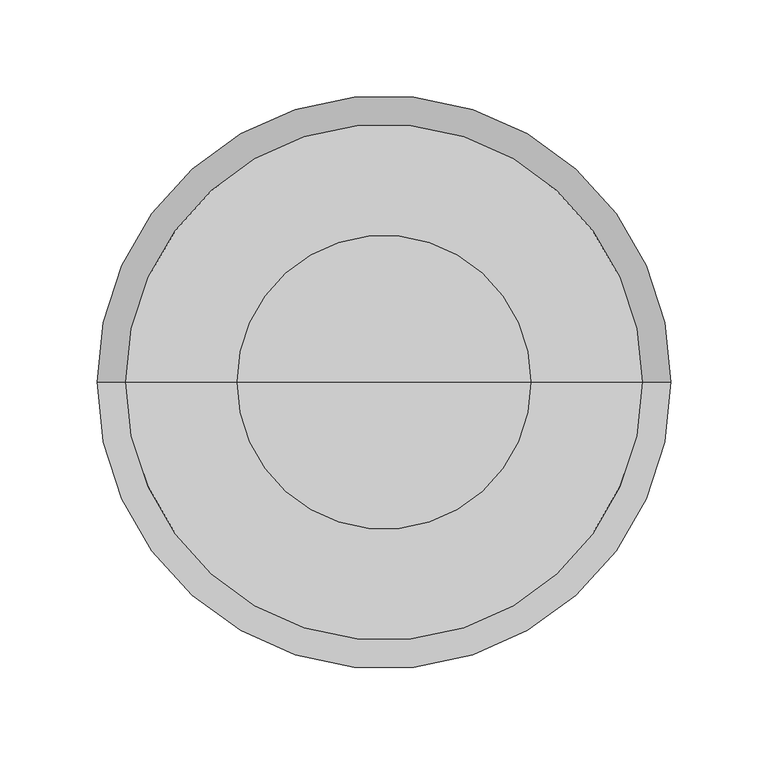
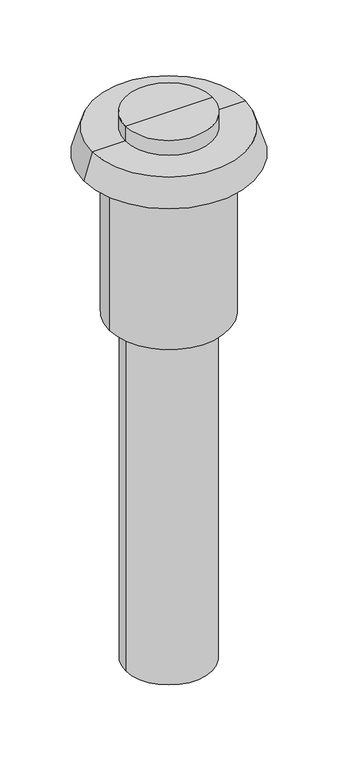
"""IFC4 building model written with IfcOpenShell, lengths in millimetres: air terminal geometry, NLRS_57_AIR_WPB_roof ventilation terminals_M&G : EPS Black, ø150 - L=1000mm."""

from ifc_helpers import new_model, si_unit, frame, origin, place, context, project, spatial, polyline, circle_curve, source, transform, mapped, element, save
from ifc_brep_helpers import plane_surface, cylinder_surface, revolved_surface, advanced_brep


def air_terminal_4240cf22(model_context):
    return source(origin(), model_context, "Body", "AdvancedBrep", [
        advanced_brep(
        [(75.7, 0.0, 365.0), (-75.7, 0.0, 365.0), (0.0, 0.0, 365.0), (75.7, 0.0, 338.0), (-75.7, 0.0, 338.0), (0.0, 0.0, 338.0)],
        [
            (0, 1, circle_curve(frame((0.0, 0.0, 365.0), z_axis=(0.0, 0.0, 1.0), x_axis=(-1.0, 0.0, 0.0)), 75.7)),
            (1, 2),
            (2, 0),
            (1, 0, circle_curve(frame((0.0, 0.0, 365.0), z_axis=(0.0, 0.0, 1.0), x_axis=(-1.0, 0.0, 0.0)), 75.7)),
            (3, 4, circle_curve(frame((0.0, 0.0, 338.0), z_axis=(0.0, 0.0, 1.0), x_axis=(-1.0, 0.0, 0.0)), 75.7)),
            (4, 1),
            (0, 3),
            (4, 3, circle_curve(frame((0.0, 0.0, 338.0), z_axis=(0.0, 0.0, 1.0), x_axis=(-1.0, 0.0, 0.0)), 75.7)),
            (5, 4),
            (3, 5),
        ],
        [
            plane_surface(frame((0.0, 0.0, 365.0), z_axis=(0.0, 0.0, 1.0), x_axis=(-1.0, 0.0, 0.0))),
            cylinder_surface(frame((0.0, 0.0, 2068.3150031), z_axis=(0.0, 0.0, -1.0), x_axis=(-1.0, 0.0, 0.0)), 75.7),
            plane_surface(frame((0.0, 0.0, 338.0), z_axis=(0.0, 0.0, -1.0), x_axis=(-1.0, 0.0, 0.0))),
        ],
        [
            (0, [[1, 2, 3]]),
            (0, [[4, -3, -2]]),
            (1, [[5, 6, -1, 7]]),
            (1, [[8, -7, -4, -6]]),
            (2, [[9, -5, 10]]),
            (2, [[-10, -8, -9]]),
        ],
    ),
        advanced_brep(
        [(103.2, 0.0, 290.0), (-103.2, 0.0, 290.0), (0.0, 0.0, 290.0), (103.2, 0.0, 0.0), (-103.2, 0.0, 0.0), (0.0, 0.0, 0.0)],
        [
            (0, 1, circle_curve(frame((0.0, 0.0, 290.0), z_axis=(0.0, 0.0, 1.0), x_axis=(-1.0, 0.0, 0.0)), 103.2)),
            (1, 2),
            (2, 0),
            (1, 0, circle_curve(frame((0.0, 0.0, 290.0), z_axis=(0.0, 0.0, 1.0), x_axis=(-1.0, 0.0, 0.0)), 103.2)),
            (3, 4, circle_curve(frame((0.0, 0.0, 0.0), z_axis=(0.0, 0.0, 1.0), x_axis=(-1.0, 0.0, 0.0)), 103.2)),
            (4, 1),
            (0, 3),
            (4, 3, circle_curve(frame((0.0, 0.0, 0.0), z_axis=(0.0, 0.0, 1.0), x_axis=(-1.0, 0.0, 0.0)), 103.2)),
            (5, 4),
            (3, 5),
        ],
        [
            plane_surface(frame((0.0, 0.0, 290.0), z_axis=(0.0, 0.0, 1.0), x_axis=(-1.0, 0.0, 0.0))),
            cylinder_surface(frame((0.0, 0.0, 2112.3150031), z_axis=(0.0, 0.0, -1.0), x_axis=(-1.0, 0.0, 0.0)), 103.2),
            plane_surface(frame((0.0, 0.0, 0.0), z_axis=(0.0, 0.0, -1.0), x_axis=(-1.0, 0.0, 0.0))),
        ],
        [
            (0, [[1, 2, 3]]),
            (0, [[4, -3, -2]]),
            (1, [[5, 6, -1, 7]]),
            (1, [[8, -7, -4, -6]]),
            (2, [[9, -5, 10]]),
            (2, [[-10, -8, -9]]),
        ],
    ),
        advanced_brep(
        [(133.0, 0.0, 338.0), (-133.0, 0.0, 338.0), (0.0, 0.0, 338.0), (147.75, 0.0, 290.0), (-147.75, 0.0, 290.0), (0.0, 0.0, 290.0)],
        [
            (0, 1, circle_curve(frame((0.0, 0.0, 338.0), z_axis=(0.0, 0.0, 1.0), x_axis=(-1.0, 0.0, 0.0)), 133.0)),
            (1, 2),
            (2, 0),
            (1, 0, circle_curve(frame((0.0, 0.0, 338.0), z_axis=(0.0, 0.0, 1.0), x_axis=(-1.0, 0.0, 0.0)), 133.0)),
            (3, 4, circle_curve(frame((0.0, 0.0, 290.0), z_axis=(0.0, 0.0, 1.0), x_axis=(-1.0, 0.0, 0.0)), 147.75)),
            (4, 1),
            (0, 3),
            (4, 3, circle_curve(frame((0.0, 0.0, 290.0), z_axis=(0.0, 0.0, 1.0), x_axis=(-1.0, 0.0, 0.0)), 147.75)),
            (5, 4),
            (3, 5),
        ],
        [
            plane_surface(frame((0.0, 0.0, 338.0), z_axis=(0.0, 0.0, 1.0), x_axis=(-1.0, 0.0, 0.0))),
            revolved_surface(polyline([(-133.0, 0.0, 338.0), (-147.75, 0.0, 290.0)]), (0.0, 0.0, 2058.3150031), (0.0, 0.0, -1.0)),
            plane_surface(frame((0.0, 0.0, 290.0), z_axis=(0.0, 0.0, -1.0), x_axis=(-1.0, 0.0, 0.0))),
        ],
        [
            (0, [[1, 2, 3]]),
            (0, [[4, -3, -2]]),
            (1, [[5, 6, -1, 7]]),
            (1, [[8, -7, -4, -6]]),
            (2, [[9, -5, 10]]),
            (2, [[-10, -8, -9]]),
        ],
    ),
        advanced_brep(
        [(75.0, 0.0, -635.0), (-75.0, 0.0, -635.0), (-75.0, 0.0, 0.0), (75.0, 0.0, 0.0), (0.0, 0.0, -635.0), (0.0, 0.0, 0.0)],
        [
            (0, 1, circle_curve(frame((0.0, 0.0, -635.0), z_axis=(0.0, 0.0, 1.0), x_axis=(-1.0, 0.0, 0.0)), 75.0)),
            (1, 2),
            (2, 3, circle_curve(frame((0.0, 0.0, 0.0), z_axis=(0.0, 0.0, -1.0), x_axis=(-1.0, 0.0, 0.0)), 75.0)),
            (3, 0),
            (1, 0, circle_curve(frame((0.0, 0.0, -635.0), z_axis=(0.0, 0.0, 1.0), x_axis=(-1.0, 0.0, 0.0)), 75.0)),
            (3, 2, circle_curve(frame((0.0, 0.0, 0.0), z_axis=(0.0, 0.0, -1.0), x_axis=(-1.0, 0.0, 0.0)), 75.0)),
            (4, 1),
            (0, 4),
            (2, 5),
            (5, 3),
        ],
        [
            cylinder_surface(frame((0.0, 0.0, 2058.3150031), z_axis=(0.0, 0.0, -1.0), x_axis=(-1.0, 0.0, 0.0)), 75.0),
            plane_surface(frame((0.0, 0.0, -635.0), z_axis=(0.0, 0.0, -1.0), x_axis=(-1.0, 0.0, 0.0))),
            plane_surface(frame((0.0, 0.0, 0.0), z_axis=(0.0, 0.0, 1.0), x_axis=(-1.0, 0.0, 0.0))),
        ],
        [
            (0, [[1, 2, 3, 4]]),
            (0, [[5, -4, 6, -2]]),
            (1, [[7, -1, 8]]),
            (1, [[-8, -5, -7]]),
            (2, [[-3, 9, 10]]),
            (2, [[-6, -10, -9]]),
        ],
    ),
    ])


if __name__ == "__main__":
    model = new_model("IFC4")
    model_context = context("Model", 3, world=origin())
    ifc_project = project(units=[si_unit("LENGTHUNIT", "METRE", prefix="MILLI")], contexts=[model_context])
    site = spatial("IfcSite", under=ifc_project)
    building = spatial("IfcBuilding", under=site)
    placement = place(None, origin())
    air_terminal_shape = air_terminal_4240cf22(model_context)
    element("IfcAirTerminal", 1, ObjectType="NLRS_57_AIR_WPB_roof ventilation terminals_M&G : EPS Black, ø150 - L=1000mm", at=placement, inside=building, context=model_context, shape_type="MappedRepresentation", body=[
        mapped(air_terminal_shape, transform((0.0, 0.0, 0.0), x_axis=(1.0, 0.0, 0.0), y_axis=(0.0, 1.0, 0.0), z_axis=(0.0, 0.0, 1.0))),
    ])
    save(model, "model.ifc")
